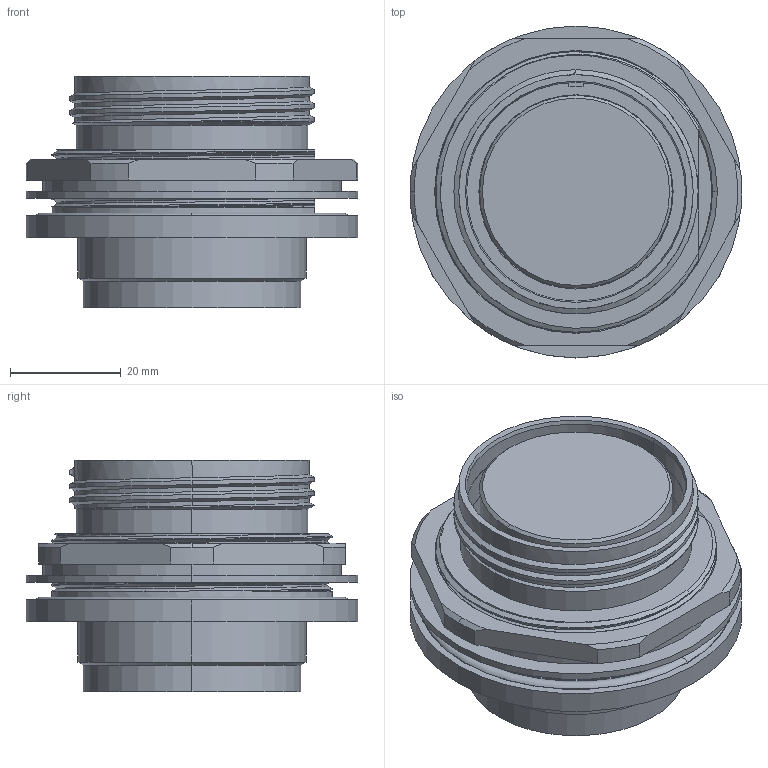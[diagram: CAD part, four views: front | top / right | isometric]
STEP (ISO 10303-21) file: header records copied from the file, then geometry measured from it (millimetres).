
FILE_DESCRIPTION (( 'STEP AP214' ), '1' );
FILE_NAME ('QLINK-RJTX-27XX-S00.STEP', '2025-09-30T21:49:27', ( '' ), ( '' ), 'SwSTEP 2.0', 'SolidWorks 2024', '' );
FILE_SCHEMA (( 'AUTOMOTIVE_DESIGN' ));
Length unit declared in the file: inch
Products named in the file (1): QLINK-RJTX-27XX-S00
Bounding box: 60.07 x 60.07 x 41.91 mm (x, y, z)
Volume: 62710.5 mm3; surface area: 24182.8 mm2
Topology: 3 solids, 3 shells, 177 faces, 457 edges, 295 vertices
Faces by surface type: cylinder 74, plane 34, cone 28, bspline 27, torus 14
Entity records: 12997 total; most frequent: CARTESIAN_POINT 8965, ORIENTED_EDGE 914, DIRECTION 762, EDGE_CURVE 457, AXIS2_PLACEMENT_3D 313, VERTEX_POINT 295, EDGE_LOOP 194, ADVANCED_FACE 177
